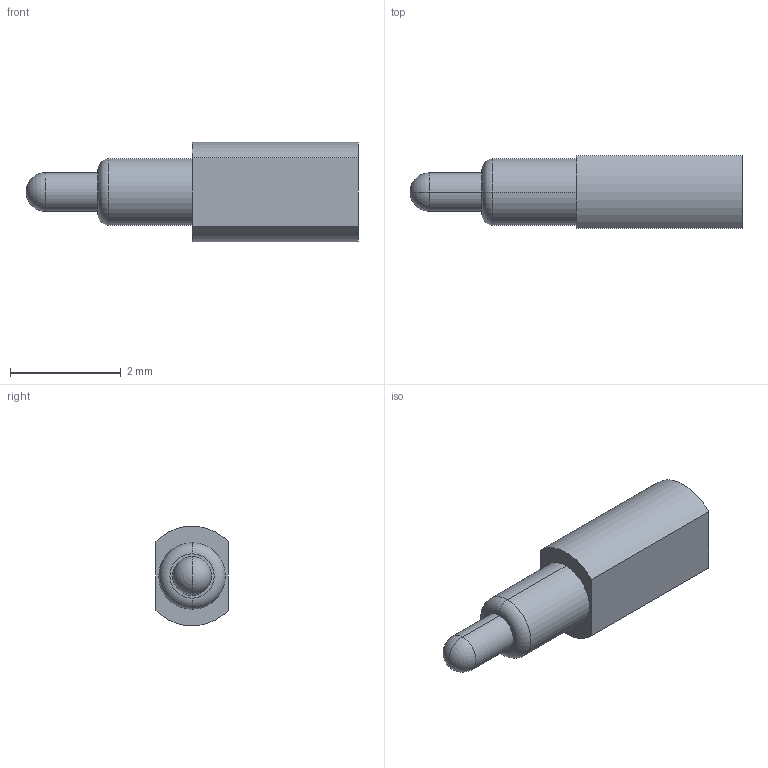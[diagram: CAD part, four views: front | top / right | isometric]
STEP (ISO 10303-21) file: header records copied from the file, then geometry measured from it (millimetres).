
FILE_DESCRIPTION((''),'2;1');
FILE_NAME('NC2355-01R','2022-05-25T10:18:27',('USER'),(''),'CREO PARAMETRIC BY PTC INC, 2018400','CREO PARAMETRIC BY PTC INC, 2018400','');
FILE_SCHEMA(('CONFIG_CONTROL_DESIGN'));
Length unit declared in the file: millimetre
Products named in the file (1): NC2355-01R
Bounding box: 6 x 1.3 x 1.8 mm (x, y, z)
Volume: 8.7 mm3; surface area: 29 mm2
Topology: 1 solids, 1 shells, 15 faces, 32 edges, 19 vertices
Faces by surface type: cylinder 6, plane 5, torus 2, sphere 2
Entity records: 436 total; most frequent: DIRECTION 78, CARTESIAN_POINT 64, ORIENTED_EDGE 60, AXIS2_PLACEMENT_3D 33, EDGE_CURVE 30, VERTEX_POINT 19, CIRCLE 18, EDGE_LOOP 17
